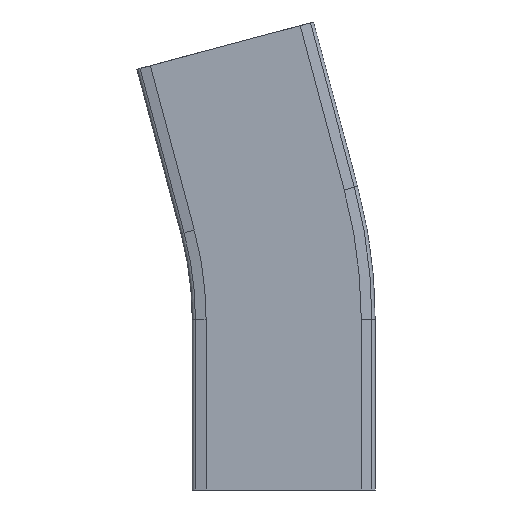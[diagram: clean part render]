
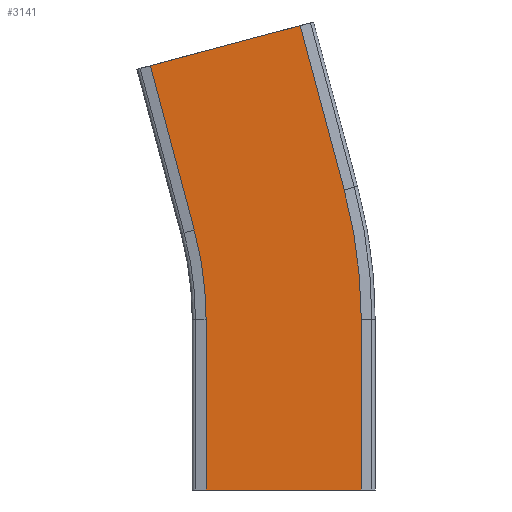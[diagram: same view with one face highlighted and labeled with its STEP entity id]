
A CAD part, front view. The second image highlights one B-rep face of the part: STEP entity #3141.
In plain terms, the highlighted planar face has unit normal (0, -1, 0).
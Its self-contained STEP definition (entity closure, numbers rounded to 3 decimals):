
#319=FACE_OUTER_BOUND('',#487,.T.);
#487=EDGE_LOOP('',(#2857,#2858,#2859,#2860,#2861,#2862,#2863,#2864));
#561=CIRCLE('',#3376,236.5);
#564=CIRCLE('',#3382,163.5);
#874=LINE('',#5317,#1212);
#879=LINE('',#5326,#1217);
#881=LINE('',#5331,#1219);
#896=LINE('',#5371,#1234);
#901=LINE('',#5382,#1239);
#902=LINE('',#5384,#1240);
#1212=VECTOR('',#4105,10.);
#1217=VECTOR('',#4112,10.);
#1219=VECTOR('',#4116,10.);
#1234=VECTOR('',#4157,10.);
#1239=VECTOR('',#4170,10.);
#1240=VECTOR('',#4173,10.);
#1512=VERTEX_POINT('',#5314);
#1513=VERTEX_POINT('',#5316);
#1516=VERTEX_POINT('',#5323);
#1517=VERTEX_POINT('',#5328);
#1527=VERTEX_POINT('',#5354);
#1529=VERTEX_POINT('',#5364);
#1530=VERTEX_POINT('',#5369);
#1532=VERTEX_POINT('',#5380);
#1944=EDGE_CURVE('',#1513,#1512,#874,.T.);
#1949=EDGE_CURVE('',#1513,#1516,#879,.T.);
#1951=EDGE_CURVE('',#1512,#1517,#881,.T.);
#1964=EDGE_CURVE('',#1517,#1527,#561,.T.);
#1970=EDGE_CURVE('',#1516,#1529,#564,.T.);
#1972=EDGE_CURVE('',#1527,#1530,#896,.T.);
#1977=EDGE_CURVE('',#1529,#1532,#901,.T.);
#1978=EDGE_CURVE('',#1530,#1532,#902,.T.);
#2857=ORIENTED_EDGE('',*,*,#1978,.T.);
#2858=ORIENTED_EDGE('',*,*,#1977,.F.);
#2859=ORIENTED_EDGE('',*,*,#1970,.F.);
#2860=ORIENTED_EDGE('',*,*,#1949,.F.);
#2861=ORIENTED_EDGE('',*,*,#1944,.T.);
#2862=ORIENTED_EDGE('',*,*,#1951,.T.);
#2863=ORIENTED_EDGE('',*,*,#1964,.T.);
#2864=ORIENTED_EDGE('',*,*,#1972,.T.);
#2978=PLANE('',#3388);
#3141=ADVANCED_FACE('',(#319),#2978,.T.);
#3376=AXIS2_PLACEMENT_3D('',#5356,#4137,#4138);
#3382=AXIS2_PLACEMENT_3D('',#5367,#4152,#4153);
#3388=AXIS2_PLACEMENT_3D('',#5383,#4171,#4172);
#4105=DIRECTION('',(1.,0.,0.));
#4112=DIRECTION('',(0.,0.,1.));
#4116=DIRECTION('',(0.,0.,1.));
#4137=DIRECTION('center_axis',(0.,-1.,0.));
#4138=DIRECTION('ref_axis',(1.,0.,0.));
#4152=DIRECTION('center_axis',(0.,-1.,0.));
#4153=DIRECTION('ref_axis',(1.,0.,0.));
#4157=DIRECTION('',(-0.259,0.,0.966));
#4170=DIRECTION('',(-0.259,0.,0.966));
#4171=DIRECTION('center_axis',(0.,-1.,0.));
#4172=DIRECTION('ref_axis',(0.259,0.,-0.966));
#4173=DIRECTION('',(-0.966,0.,-0.259));
#5314=CARTESIAN_POINT('',(36.5,-11.,0.));
#5316=CARTESIAN_POINT('',(-36.5,-11.,0.));
#5317=CARTESIAN_POINT('',(-36.5,-11.,0.));
#5323=CARTESIAN_POINT('',(-36.5,-11.,80.));
#5326=CARTESIAN_POINT('',(-36.5,-11.,0.));
#5328=CARTESIAN_POINT('',(36.5,-11.,80.));
#5331=CARTESIAN_POINT('',(36.5,-11.,0.));
#5354=CARTESIAN_POINT('',(28.441,-11.,141.211));
#5356=CARTESIAN_POINT('Origin',(-200.,-11.,80.));
#5364=CARTESIAN_POINT('',(-42.071,-11.,122.317));
#5367=CARTESIAN_POINT('Origin',(-200.,-11.,80.));
#5369=CARTESIAN_POINT('',(7.736,-11.,218.485));
#5371=CARTESIAN_POINT('',(62.699,-11.,13.361));
#5380=CARTESIAN_POINT('',(-62.777,-11.,199.591));
#5382=CARTESIAN_POINT('',(-7.814,-11.,-5.533));
#5383=CARTESIAN_POINT('Origin',(62.699,-11.,13.361));
#5384=CARTESIAN_POINT('',(-8.443,-11.,214.15));
